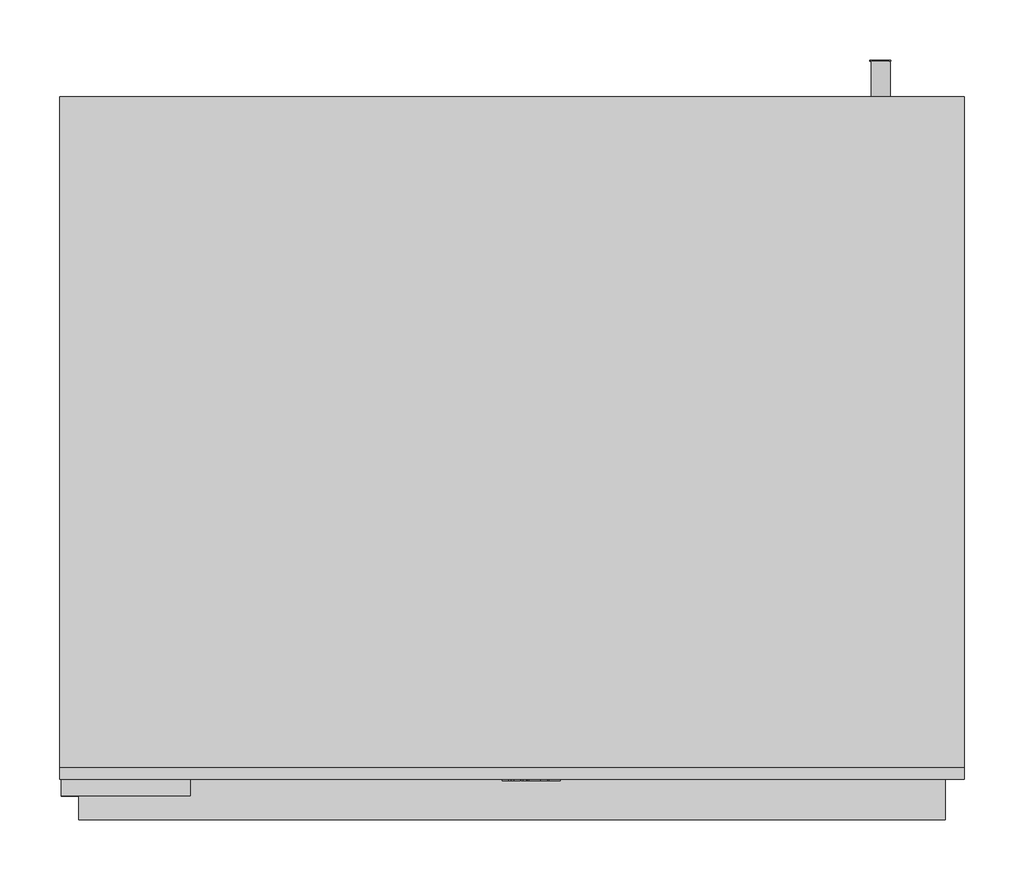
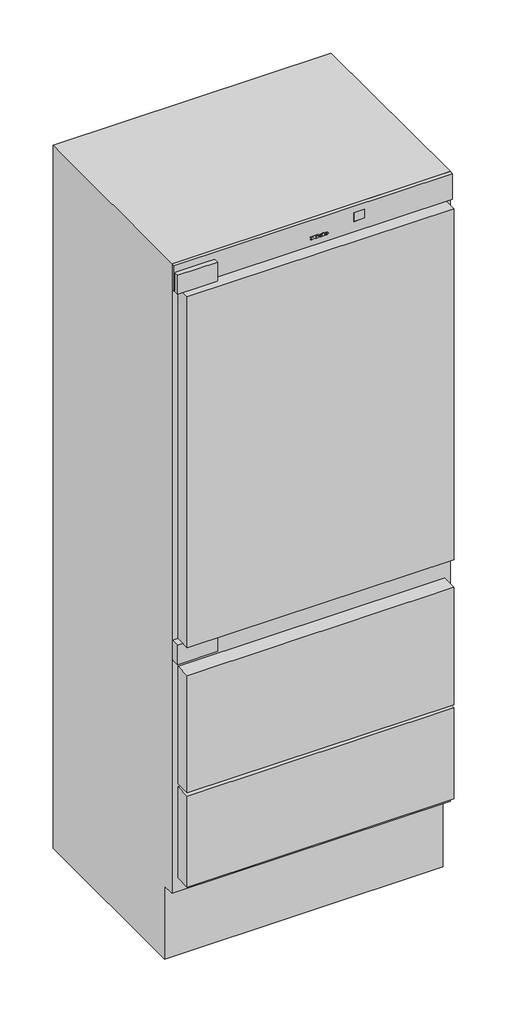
# Not in any storey: 1 proxy.
"""IFC4 building model written with IfcOpenShell, lengths in millimetres."""

import ifcopenshell
import ifcopenshell.guid

model = None  # the IFC model being written
_history = None  # IfcOwnerHistory: only IFC2X3 demands one
_inside = {}  # id of a spatial element -> (the spatial element, [elements in it])
_under = {}  # id of a project, library or spatial element -> (it, [spatial elements below it])
_declared = {}  # id of a project -> (the project, [libraries it declares])
_typed = {}  # id of a type object -> (the type object, [elements of that type])
_made_of = {}  # id of a material, layer set ... -> (it, [elements and type objects made of it])


def new_model(schema):
    """Start an empty IFC model of exactly this schema.

    Asked for "IFC4X3", IfcOpenShell would pick the latest addendum, in which some entities
    have other attributes; the version numbers below select the first issue.
    IFC2X3 requires an IfcOwnerHistory on every rooted entity: one is made here for all.
    """
    global model, _history
    if schema == "IFC4X3":
        model = ifcopenshell.file(schema_version=(4, 3, 0, 0))
    else:
        model = ifcopenshell.file(schema=schema)
    _inside.clear()
    _under.clear()
    _declared.clear()
    _typed.clear()
    _made_of.clear()
    _history = None
    if model.schema == "IFC2X3":
        org = make("IfcOrganization", Name="unknown")
        user = make(
            "IfcPersonAndOrganization",
            ThePerson=make("IfcPerson", FamilyName="unknown"),
            TheOrganization=org,
        )
        app = make(
            "IfcApplication",
            ApplicationDeveloper=org,
            Version="unknown",
            ApplicationFullName="unknown",
            ApplicationIdentifier="unknown",
        )
        _history = make(
            "IfcOwnerHistory",
            OwningUser=user,
            OwningApplication=app,
            ChangeAction="ADDED",
            CreationDate=0,
        )
    return model


def make(cls, **values):
    """One entity of the class cls with the attributes given. An attribute that is None is left unset."""
    return model.create_entity(
        cls, **{name: value for name, value in values.items() if value is not None}
    )


def rooted(cls, **values):
    """An entity with a GlobalId (a new one), such as an element, a storey or a relation."""
    return make(cls, GlobalId=ifcopenshell.guid.new(), OwnerHistory=_history, **values)


def si_unit(unit_type, name, prefix=None):
    """IfcSIUnit, for example si_unit("LENGTHUNIT", "METRE", prefix="MILLI")."""
    return make("IfcSIUnit", UnitType=unit_type, Prefix=prefix, Name=name)


def assignment(units):
    """IfcUnitAssignment: the units of a project."""
    return None if units is None else make("IfcUnitAssignment", Units=units)


def point(xyz):
    """IfcCartesianPoint."""
    return None if xyz is None else make("IfcCartesianPoint", Coordinates=xyz)


def direction(xyz):
    """IfcDirection."""
    return None if xyz is None else make("IfcDirection", DirectionRatios=xyz)


def frame(location, z_axis=None, x_axis=None):
    """IfcAxis2Placement3D, a coordinate frame: its origin and axes. An axis left out is left unset."""
    return make(
        "IfcAxis2Placement3D",
        Location=point(location),
        Axis=direction(z_axis),
        RefDirection=direction(x_axis),
    )


def frame_2d(location, x_axis=None):
    """IfcAxis2Placement2D, a coordinate frame in the plane: its origin and x axis."""
    return make(
        "IfcAxis2Placement2D", Location=point(location), RefDirection=direction(x_axis)
    )


def origin():
    """The frame at (0, 0, 0) with its axes left unset."""
    return frame((0.0, 0.0, 0.0))


def origin_with_axes():
    """The frame at (0, 0, 0) with the z axis (0, 0, 1) and the x axis (1, 0, 0) written out."""
    return frame((0.0, 0.0, 0.0), z_axis=(0.0, 0.0, 1.0), x_axis=(1.0, 0.0, 0.0))


def place(relative_to, where):
    """IfcLocalPlacement: puts the frame where relative to a parent placement (None: the world)."""
    return make(
        "IfcLocalPlacement", PlacementRelTo=relative_to, RelativePlacement=where
    )


def context(
    kind, dimensions, precision=None, world=None, true_north=None, identifier=None
):
    """IfcGeometricRepresentationContext, for example the 3D "Model" context."""
    return make(
        "IfcGeometricRepresentationContext",
        ContextIdentifier=identifier,
        ContextType=kind,
        CoordinateSpaceDimension=dimensions,
        Precision=precision,
        WorldCoordinateSystem=world,
        TrueNorth=true_north,
    )


def project(units=None, contexts=None):
    """IfcProject with its units and contexts."""
    return rooted(
        "IfcProject",
        Name="project",
        RepresentationContexts=contexts,
        UnitsInContext=assignment(units),
    )


def spatial(cls, under=None, at=None, **own):
    """A site, building, storey or space (cls), placed at a placement, below another one or the project."""
    s = rooted(cls, ObjectPlacement=at, **own)
    if under is not None:
        _under.setdefault(under.id(), (under, []))[1].append(s)
    return s


def polyline(points):
    """IfcPolyline through the points."""
    return make("IfcPolyline", Points=[point(p) for p in points])


def circle_curve(where, radius):
    """IfcCircle in the frame where."""
    return make("IfcCircle", Position=where, Radius=radius)


def ellipse_curve(where, semi_axis1, semi_axis2):
    """IfcEllipse in the frame where."""
    return make(
        "IfcEllipse", Position=where, SemiAxis1=semi_axis1, SemiAxis2=semi_axis2
    )


def trimmed(basis, trim1, trim2, sense, master):
    """IfcTrimmedCurve: the piece of a basis curve between two trims."""
    return make(
        "IfcTrimmedCurve",
        BasisCurve=basis,
        Trim1=trim1,
        Trim2=trim2,
        SenseAgreement=sense,
        MasterRepresentation=master,
    )


def segment(curve, same_sense, transition):
    """IfcCompositeCurveSegment."""
    return make(
        "IfcCompositeCurveSegment",
        Transition=transition,
        SameSense=same_sense,
        ParentCurve=curve,
    )


def composite_curve(segments, self_intersect=None):
    """IfcCompositeCurve: segments joined end to end."""
    return make("IfcCompositeCurve", Segments=segments, SelfIntersect=self_intersect)


def outline(outer, holes=None, kind="AREA"):
    """IfcArbitraryClosedProfileDef: a profile drawn as a closed curve; with holes, ...WithVoids."""
    if holes is None:
        return make("IfcArbitraryClosedProfileDef", ProfileType=kind, OuterCurve=outer)
    return make(
        "IfcArbitraryProfileDefWithVoids",
        ProfileType=kind,
        OuterCurve=outer,
        InnerCurves=holes,
    )


def extrude(swept, where, along, depth):
    """IfcExtrudedAreaSolid: the profile swept, set in the frame where, extruded along a direction by depth."""
    return make(
        "IfcExtrudedAreaSolid",
        SweptArea=swept,
        Position=where,
        ExtrudedDirection=direction(along),
        Depth=depth,
    )


def faces_of(points, faces, orient=None, outer=None):
    """IfcFace entities. A face is a list of loops; a loop is a list of indices into points, from 0.

    orient and outer hold one flag for each loop. By default every Orientation is true, the
    first loop of a face is its IfcFaceOuterBound and the others are IfcFaceBound.
    """
    made = []
    for i, loops in enumerate(faces):
        bounds = []
        for j, loop in enumerate(loops):
            is_outer = j == 0 if outer is None else outer[i][j]
            bounds.append(
                make(
                    "IfcFaceOuterBound" if is_outer else "IfcFaceBound",
                    Bound=make("IfcPolyLoop", Polygon=[points[k] for k in loop]),
                    Orientation=True if orient is None else orient[i][j],
                )
            )
        made.append(make("IfcFace", Bounds=bounds))
    return made


def faceted_brep(points, faces, orient=None, outer=None, voids=None):
    """IfcFacetedBrep: a solid bounded by flat faces; with voids (closed shells), ...WithVoids."""
    shared = [point(p) for p in points]
    hull = make("IfcClosedShell", CfsFaces=faces_of(shared, faces, orient, outer))
    if voids is None:
        return make("IfcFacetedBrep", Outer=hull)
    return make(
        "IfcFacetedBrepWithVoids",
        Outer=hull,
        Voids=[
            make(cls, CfsFaces=faces_of(shared, fs, o, b)) for cls, fs, o, b in voids
        ],
    )


def shape(context_of_items, identifier, shape_type, items):
    """IfcShapeRepresentation: the items that make up one representation, for example the "Body"."""
    return make(
        "IfcShapeRepresentation",
        ContextOfItems=context_of_items,
        RepresentationIdentifier=identifier,
        RepresentationType=shape_type,
        Items=items,
    )


def source(mapping_origin, context_of_items, identifier, shape_type, items):
    """IfcRepresentationMap: a shape defined once, which mapped items show again and again."""
    return make(
        "IfcRepresentationMap",
        MappingOrigin=mapping_origin,
        MappedRepresentation=shape(context_of_items, identifier, shape_type, items),
    )


def transform(
    local_origin,
    x_axis=None,
    y_axis=None,
    z_axis=None,
    scale=None,
    scale2=None,
    scale3=None,
    uniform=True,
):
    """IfcCartesianTransformationOperator3D, or its non-uniform kind. x_axis, y_axis, z_axis: its Axis1, 2, 3."""
    if uniform:
        return make(
            "IfcCartesianTransformationOperator3D",
            Axis1=direction(x_axis),
            Axis2=direction(y_axis),
            LocalOrigin=point(local_origin),
            Scale=scale,
            Axis3=direction(z_axis),
        )
    return make(
        "IfcCartesianTransformationOperator3DnonUniform",
        Axis1=direction(x_axis),
        Axis2=direction(y_axis),
        LocalOrigin=point(local_origin),
        Scale=scale,
        Axis3=direction(z_axis),
        Scale2=scale2,
        Scale3=scale3,
    )


def mapped(mapping_source, mapping_target):
    """IfcMappedItem: shows the shape of a source again, moved by a transform."""
    return make(
        "IfcMappedItem", MappingSource=mapping_source, MappingTarget=mapping_target
    )


def made_of(thing, what):
    """Note that an element or type object is made of a material, layer set ...; save() writes the relation."""
    if what is not None:
        _made_of.setdefault(what.id(), (what, []))[1].append(thing)
    return thing


def element(
    cls,
    number,
    at=None,
    inside=None,
    cuts=None,
    type_object=None,
    material=None,
    context=None,
    identifier="Body",
    shape_type=None,
    held_by="IfcProductDefinitionShape",
    body=None,
    shapes=None,
    **own,
):
    """One element of the class cls, such as IfcWall. Its Tag is "e" and its number.

    at: its placement. inside: the storey or other place that contains it. cuts: it is an
    opening in that element (IfcRelVoidsElement). A single representation is given by context,
    identifier, shape_type and body (its items); several are given by shapes. held_by: the class
    of the entity that holds the representations. save() writes the other relations.
    """
    e = rooted(cls, Tag="e%d" % number, ObjectPlacement=at, **own)
    if body is not None:
        shapes = [shape(context, identifier, shape_type, body)]
    if shapes is not None:
        e.Representation = make(held_by, Representations=shapes)
    if inside is not None:
        _inside.setdefault(inside.id(), (inside, []))[1].append(e)
    if cuts is not None:
        rooted(
            "IfcRelVoidsElement", RelatingBuildingElement=cuts, RelatedOpeningElement=e
        )
    if type_object is not None:
        _typed.setdefault(type_object.id(), (type_object, []))[1].append(e)
    return made_of(e, material)


def aggregate(whole, parts):
    """IfcRelAggregates: a whole, such as a stair, and the parts it consists of."""
    return rooted("IfcRelAggregates", RelatingObject=whole, RelatedObjects=parts)


def save(model, path):
    """Write the relations noted so far, then the file.

    IfcRelAggregates (storeys below a building ...), IfcRelContainedInSpatialStructure (elements
    in a storey), IfcRelDefinesByType, IfcRelAssociatesMaterial and IfcRelDeclares: one each for
    every whole, place, type object, material and project.
    """
    for whole, parts in _under.values():
        aggregate(whole, parts)
    for where, things in _inside.values():
        rooted(
            "IfcRelContainedInSpatialStructure",
            RelatedElements=things,
            RelatingStructure=where,
        )
    for kind, things in _typed.values():
        rooted("IfcRelDefinesByType", RelatedObjects=things, RelatingType=kind)
    for what, things in _made_of.values():
        rooted("IfcRelAssociatesMaterial", RelatedObjects=things, RelatingMaterial=what)
    for by, libraries in _declared.values():
        rooted("IfcRelDeclares", RelatingContext=by, RelatedDefinitions=libraries)
    model.write(path)


def plane_surface(at):
    """IfcPlane: the flat surface through the origin of the frame at, square to its z axis."""
    return make("IfcPlane", Position=at)


def cylinder_surface(at, radius):
    """IfcCylindricalSurface: all points at the distance radius from the z axis of the frame at."""
    return make("IfcCylindricalSurface", Position=at, Radius=radius)


def revolved_surface(curve, axis_point, axis_direction):
    """IfcSurfaceOfRevolution: the curve turned about the line through axis_point along axis_direction."""
    return make(
        "IfcSurfaceOfRevolution",
        SweptCurve=make("IfcArbitraryOpenProfileDef", ProfileType="CURVE", Curve=curve),
        AxisPosition=make("IfcAxis1Placement", Location=point(axis_point), Axis=direction(axis_direction)),
    )


def extruded_surface(curve, direction_of_extrusion, depth):
    """IfcSurfaceOfLinearExtrusion: the curve pushed along a direction by depth."""
    return make(
        "IfcSurfaceOfLinearExtrusion",
        SweptCurve=make("IfcArbitraryOpenProfileDef", ProfileType="CURVE", Curve=curve),
        ExtrudedDirection=direction(direction_of_extrusion),
        Depth=depth,
    )


def advanced_brep(points, edges, surfaces, faces):
    """IfcAdvancedBrep: a solid bounded by faces that lie on surfaces and meet in shared edges.

    An edge is (start, end): straight between two places in points (the first is 0);
    or (start, end, curve); or (start, end, curve, False) where it runs against its curve.
    A face is (place in surfaces, loops), or (place, loops, False) where it looks against
    its surface's normal. A loop lists edges by number (the first is 1), with a minus sign
    where the edge is run from its end to its start. The first loop is the outer one.
    """
    corners = [point(p) for p in points]
    vertices = [make("IfcVertexPoint", VertexGeometry=c) for c in corners]
    made = []
    for start, end, *more in edges:
        made.append(
            make(
                "IfcEdgeCurve",
                EdgeStart=vertices[start],
                EdgeEnd=vertices[end],
                EdgeGeometry=more[0] if more else make("IfcPolyline", Points=[corners[start], corners[end]]),
                SameSense=more[1] if len(more) > 1 else True,
            )
        )
    hull = []
    for where, loops, *sense in faces:
        bounds = []
        for j, loop in enumerate(loops):
            ring = [make("IfcOrientedEdge", EdgeElement=made[abs(k) - 1], Orientation=k > 0) for k in loop]
            bounds.append(
                make(
                    "IfcFaceOuterBound" if j == 0 else "IfcFaceBound",
                    Bound=make("IfcEdgeLoop", EdgeList=ring),
                    Orientation=True,
                )
            )
        hull.append(make("IfcAdvancedFace", Bounds=bounds, FaceSurface=surfaces[where], SameSense=sense[0] if sense else True))
    return make("IfcAdvancedBrep", Outer=make("IfcClosedShell", CfsFaces=hull))


def specialty_equipment_bac7a8fd(model_context):
    return source(origin(), model_context, "Body", "SolidModel", [
        advanced_brep(
        [(34.992016, 32.7, 1972.9334815), (34.992016, 32.7, 1973.7414815), (40.344016, 32.7, 1973.7414815), (31.032016, 32.7, 1973.7414815), (33.232016, 32.7, 1971.0374815), (40.208016, 32.7, 1972.9334815), (37.792016, 32.7, 1972.9334815), (35.888016, 32.7, 1972.0374815), (34.992016, 32.7, 1974.7654815), (34.992016, 32.7, 1975.6374815), (36.360016, 32.7, 1975.6374815), (36.360016, 32.7, 1974.7654815), (34.992016, 33.7, 1972.9334815), (35.888016, 33.7, 1972.0374815), (37.792016, 33.7, 1972.9334815), (40.208016, 33.7, 1972.9334815), (33.232016, 33.7, 1971.0374815), (31.032016, 33.7, 1973.7414815), (40.344016, 33.7, 1973.7414815), (34.992016, 33.7, 1973.7414815), (34.992016, 33.7, 1974.7654815), (36.360016, 33.7, 1974.7654815), (36.360016, 33.7, 1975.6374815), (34.992016, 33.7, 1975.6374815)],
        [
            (0, 1),
            (1, 2),
            (2, 3, ellipse_curve(frame((35.688016, 32.7, 1973.7414815), z_axis=(0.0, -1.0, 0.0), x_axis=(-1.0, 0.0, 0.0)), 4.656, 3.848)),
            (3, 4, circle_curve(frame((34.1280596, 32.7, 1974.0134815), z_axis=(0.0, -1.0, 0.0), x_axis=(0.0, 0.0, -1.0)), 3.1079688)),
            (4, 5, circle_curve(frame((35.5948096, 32.7, 1976.1254815), z_axis=(0.0, -1.0, 0.0), x_axis=(0.0, 0.0, -1.0)), 5.6098607)),
            (5, 6),
            (6, 7, circle_curve(frame((36.2790748, 32.7, 1973.6774815), z_axis=(0.0, 1.0, 0.0), x_axis=(0.0, 0.0, -1.0)), 1.6859795)),
            (7, 0, circle_curve(frame((35.888016, 32.7, 1972.9334815), z_axis=(0.0, 1.0, 0.0), x_axis=(0.0, 0.0, -1.0)), 0.896)),
            (8, 9),
            (9, 10, circle_curve(frame((35.676016, 32.7, 1975.6374815), z_axis=(0.0, 1.0, 0.0), x_axis=(0.0, 0.0, -1.0)), 0.684)),
            (10, 11),
            (11, 8),
            (12, 13, circle_curve(frame((35.888016, 33.7, 1972.9334815), z_axis=(0.0, -1.0, 0.0), x_axis=(0.0, 0.0, -1.0)), 0.896)),
            (13, 14, circle_curve(frame((36.2790748, 33.7, 1973.6774815), z_axis=(0.0, -1.0, 0.0), x_axis=(0.0, 0.0, -1.0)), 1.6859795)),
            (14, 15),
            (15, 16, circle_curve(frame((35.5948096, 33.7, 1976.1254815), z_axis=(0.0, 1.0, 0.0), x_axis=(0.0, 0.0, -1.0)), 5.6098607)),
            (16, 17, circle_curve(frame((34.1280596, 33.7, 1974.0134815), z_axis=(0.0, 1.0, 0.0), x_axis=(0.0, 0.0, -1.0)), 3.1079688)),
            (17, 18, ellipse_curve(frame((35.688016, 33.7, 1973.7414815), z_axis=(0.0, 1.0, 0.0), x_axis=(-1.0, 0.0, 0.0)), 4.656, 3.848)),
            (18, 19),
            (19, 12),
            (20, 21),
            (21, 22),
            (22, 23, circle_curve(frame((35.676016, 33.7, 1975.6374815), z_axis=(0.0, -1.0, 0.0), x_axis=(0.0, 0.0, -1.0)), 0.684)),
            (23, 20),
            (0, 12),
            (19, 1),
            (18, 2),
            (5, 15),
            (14, 6),
            (17, 3),
            (13, 7),
            (16, 4),
            (8, 20),
            (23, 9),
            (22, 10),
            (21, 11),
        ],
        [
            plane_surface(frame((34.992016, 32.7, 1973.7414815), z_axis=(0.0, -1.0, 0.0), x_axis=(0.0, 0.0, 1.0))),
            plane_surface(frame((34.992016, 33.7, 1973.7414815), z_axis=(0.0, 1.0, 0.0), x_axis=(0.0, 0.0, -1.0))),
            plane_surface(frame((34.992016, 32.7, 1972.9334815), z_axis=(1.0, 0.0, 0.0), x_axis=(0.0, 1.0, 0.0))),
            plane_surface(frame((34.992016, 32.7, 1973.7414815), z_axis=(0.0, 0.0, -1.0), x_axis=(0.0, 1.0, 0.0))),
            plane_surface(frame((40.208016, 32.7, 1972.9334815), z_axis=(0.0, 0.0, 1.0), x_axis=(0.0, 1.0, 0.0))),
            extruded_surface(trimmed(ellipse_curve(frame((35.688016, 34.7, 1973.7414815), z_axis=(0.0, -1.0, 0.0), x_axis=(-1.0, 0.0, 0.0)), 4.656, 3.848), [point((40.344016, 34.7, 1973.7414815))], [point((31.032016, 34.7, 1973.7414815))], True, "CARTESIAN"), (0.0, -1.0, 0.0), 1.0),
            revolved_surface(polyline([(36.2790748, 33.7, 1971.991502), (36.2790748, 32.7, 1971.991502)]), (36.2790748, 33.7, 1973.6774815), (0.0, 1.0, 0.0)),
            revolved_surface(polyline([(35.888016, 33.7, 1972.0374815), (35.888016, 32.7, 1972.0374815)]), (35.888016, 33.7, 1972.9334815), (0.0, 1.0, 0.0)),
            cylinder_surface(frame((34.1280596, 33.7, 1974.0134815), z_axis=(0.0, -1.0, 0.0), x_axis=(0.0, 0.0, -1.0)), 3.1079688),
            cylinder_surface(frame((35.5948096, 33.7, 1976.1254815), z_axis=(0.0, -1.0, 0.0), x_axis=(0.0, 0.0, -1.0)), 5.6098607),
            plane_surface(frame((34.992016, 32.7, 1974.7654815), z_axis=(1.0, 0.0, 0.0), x_axis=(0.0, 1.0, 0.0))),
            revolved_surface(polyline([(35.676016, 33.7, 1974.9534815), (35.676016, 32.7, 1974.9534815)]), (35.676016, 33.7, 1975.6374815), (0.0, 1.0, 0.0)),
            plane_surface(frame((36.360016, 32.7, 1975.6374815), z_axis=(-1.0, 0.0, 0.0), x_axis=(0.0, 1.0, 0.0))),
            plane_surface(frame((36.360016, 32.7, 1974.7654815), z_axis=(0.0, 0.0, 1.0), x_axis=(0.0, 1.0, 0.0))),
        ],
        [
            (0, [[1, 2, 3, 4, 5, 6, 7, 8], [9, 10, 11, 12]]),
            (1, [[13, 14, 15, 16, 17, 18, 19, 20], [21, 22, 23, 24]]),
            (2, [[-1, 25, -20, 26]]),
            (3, [[-2, -26, -19, 27]]),
            (4, [[-6, 28, -15, 29]]),
            (5, [[-3, -27, -18, 30]]),
            (6, [[-7, -29, -14, 31]]),
            (7, [[-8, -31, -13, -25]]),
            (8, [[-4, -30, -17, 32]]),
            (9, [[-5, -32, -16, -28]]),
            (10, [[-9, 33, -24, 34]]),
            (11, [[-10, -34, -23, 35]]),
            (12, [[-11, -35, -22, 36]]),
            (13, [[-12, -36, -21, -33]]),
        ],
    ),
        advanced_brep(
        [(18.296016, 32.7, 1972.9334815), (18.296016, 32.7, 1973.7414815), (23.648016, 32.7, 1973.7414815), (14.336016, 32.7, 1973.7414815), (16.536016, 32.7, 1971.0374815), (23.512016, 32.7, 1972.9334815), (21.096016, 32.7, 1972.9334815), (19.192016, 32.7, 1972.0374815), (18.296016, 32.7, 1974.7654815), (18.296016, 32.7, 1975.6374815), (19.664016, 32.7, 1975.6374815), (19.664016, 32.7, 1974.7654815), (18.296016, 33.7, 1972.9334815), (19.192016, 33.7, 1972.0374815), (21.096016, 33.7, 1972.9334815), (23.512016, 33.7, 1972.9334815), (16.536016, 33.7, 1971.0374815), (14.336016, 33.7, 1973.7414815), (23.648016, 33.7, 1973.7414815), (18.296016, 33.7, 1973.7414815), (18.296016, 33.7, 1974.7654815), (19.664016, 33.7, 1974.7654815), (19.664016, 33.7, 1975.6374815), (18.296016, 33.7, 1975.6374815)],
        [
            (0, 1),
            (1, 2),
            (2, 3, ellipse_curve(frame((18.992016, 32.7, 1973.7414815), z_axis=(0.0, -1.0, 0.0), x_axis=(-1.0, 0.0, 0.0)), 4.656, 3.848)),
            (3, 4, circle_curve(frame((17.4320596, 32.7, 1974.0134815), z_axis=(0.0, -1.0, 0.0), x_axis=(0.0, 0.0, -1.0)), 3.1079688)),
            (4, 5, circle_curve(frame((18.8988096, 32.7, 1976.1254815), z_axis=(0.0, -1.0, 0.0), x_axis=(0.0, 0.0, -1.0)), 5.6098607)),
            (5, 6),
            (6, 7, circle_curve(frame((19.5830748, 32.7, 1973.6774815), z_axis=(0.0, 1.0, 0.0), x_axis=(0.0, 0.0, -1.0)), 1.6859795)),
            (7, 0, circle_curve(frame((19.192016, 32.7, 1972.9334815), z_axis=(0.0, 1.0, 0.0), x_axis=(0.0, 0.0, -1.0)), 0.896)),
            (8, 9),
            (9, 10, circle_curve(frame((18.980016, 32.7, 1975.6374815), z_axis=(0.0, 1.0, 0.0), x_axis=(0.0, 0.0, -1.0)), 0.684)),
            (10, 11),
            (11, 8),
            (12, 13, circle_curve(frame((19.192016, 33.7, 1972.9334815), z_axis=(0.0, -1.0, 0.0), x_axis=(0.0, 0.0, -1.0)), 0.896)),
            (13, 14, circle_curve(frame((19.5830748, 33.7, 1973.6774815), z_axis=(0.0, -1.0, 0.0), x_axis=(0.0, 0.0, -1.0)), 1.6859795)),
            (14, 15),
            (15, 16, circle_curve(frame((18.8988096, 33.7, 1976.1254815), z_axis=(0.0, 1.0, 0.0), x_axis=(0.0, 0.0, -1.0)), 5.6098607)),
            (16, 17, circle_curve(frame((17.4320596, 33.7, 1974.0134815), z_axis=(0.0, 1.0, 0.0), x_axis=(0.0, 0.0, -1.0)), 3.1079688)),
            (17, 18, ellipse_curve(frame((18.992016, 33.7, 1973.7414815), z_axis=(0.0, 1.0, 0.0), x_axis=(-1.0, 0.0, 0.0)), 4.656, 3.848)),
            (18, 19),
            (19, 12),
            (20, 21),
            (21, 22),
            (22, 23, circle_curve(frame((18.980016, 33.7, 1975.6374815), z_axis=(0.0, -1.0, 0.0), x_axis=(0.0, 0.0, -1.0)), 0.684)),
            (23, 20),
            (0, 12),
            (19, 1),
            (18, 2),
            (5, 15),
            (14, 6),
            (17, 3),
            (13, 7),
            (16, 4),
            (8, 20),
            (23, 9),
            (22, 10),
            (21, 11),
        ],
        [
            plane_surface(frame((18.296016, 32.7, 1973.7414815), z_axis=(0.0, -1.0, 0.0), x_axis=(0.0, 0.0, 1.0))),
            plane_surface(frame((18.296016, 33.7, 1973.7414815), z_axis=(0.0, 1.0, 0.0), x_axis=(0.0, 0.0, -1.0))),
            plane_surface(frame((18.296016, 32.7, 1972.9334815), z_axis=(1.0, 0.0, 0.0), x_axis=(0.0, 1.0, 0.0))),
            plane_surface(frame((18.296016, 32.7, 1973.7414815), z_axis=(0.0, 0.0, -1.0), x_axis=(0.0, 1.0, 0.0))),
            plane_surface(frame((23.512016, 32.7, 1972.9334815), z_axis=(0.0, 0.0, 1.0), x_axis=(0.0, 1.0, 0.0))),
            extruded_surface(trimmed(ellipse_curve(frame((18.992016, 34.7, 1973.7414815), z_axis=(0.0, -1.0, 0.0), x_axis=(-1.0, 0.0, 0.0)), 4.656, 3.848), [point((23.648016, 34.7, 1973.7414815))], [point((14.336016, 34.7, 1973.7414815))], True, "CARTESIAN"), (0.0, -1.0, 0.0), 1.0),
            revolved_surface(polyline([(19.5830748, 33.7, 1971.991502), (19.5830748, 32.7, 1971.991502)]), (19.5830748, 33.7, 1973.6774815), (0.0, 1.0, 0.0)),
            revolved_surface(polyline([(19.192016, 33.7, 1972.0374815), (19.192016, 32.7, 1972.0374815)]), (19.192016, 33.7, 1972.9334815), (0.0, 1.0, 0.0)),
            cylinder_surface(frame((17.4320596, 33.7, 1974.0134815), z_axis=(0.0, -1.0, 0.0), x_axis=(0.0, 0.0, -1.0)), 3.1079688),
            cylinder_surface(frame((18.8988096, 33.7, 1976.1254815), z_axis=(0.0, -1.0, 0.0), x_axis=(0.0, 0.0, -1.0)), 5.6098607),
            plane_surface(frame((18.296016, 32.7, 1974.7654815), z_axis=(1.0, 0.0, 0.0), x_axis=(0.0, 1.0, 0.0))),
            revolved_surface(polyline([(18.980016, 33.7, 1974.9534815), (18.980016, 32.7, 1974.9534815)]), (18.980016, 33.7, 1975.6374815), (0.0, 1.0, 0.0)),
            plane_surface(frame((19.664016, 32.7, 1975.6374815), z_axis=(-1.0, 0.0, 0.0), x_axis=(0.0, 1.0, 0.0))),
            plane_surface(frame((19.664016, 32.7, 1974.7654815), z_axis=(0.0, 0.0, 1.0), x_axis=(0.0, 1.0, 0.0))),
        ],
        [
            (0, [[1, 2, 3, 4, 5, 6, 7, 8], [9, 10, 11, 12]]),
            (1, [[13, 14, 15, 16, 17, 18, 19, 20], [21, 22, 23, 24]]),
            (2, [[-1, 25, -20, 26]]),
            (3, [[-2, -26, -19, 27]]),
            (4, [[-6, 28, -15, 29]]),
            (5, [[-3, -27, -18, 30]]),
            (6, [[-7, -29, -14, 31]]),
            (7, [[-8, -31, -13, -25]]),
            (8, [[-4, -30, -17, 32]]),
            (9, [[-5, -32, -16, -28]]),
            (10, [[-9, 33, -24, 34]]),
            (11, [[-10, -34, -23, 35]]),
            (12, [[-11, -35, -22, 36]]),
            (13, [[-12, -36, -21, -33]]),
        ],
    ),
        extrude(outline(polyline([(1978.5654815, 9.552016), (1977.2694815, 10.160016), (1978.5334815, 12.872016), (1979.8294815, 12.272016), (1978.5654815, 9.552016)])), frame((0.0, 32.7, 0.0), z_axis=(0.0, 1.0, 0.0), x_axis=(0.0, 0.0, 1.0)), (0.0, 0.0, 1.0), 1.0),
        extrude(outline(polyline([(1977.0934815, 7.576016), (1975.6614815, 7.576016), (1975.6614815, 8.528016), (1972.3814815, 8.528016), (1972.3814815, 7.576016), (1971.0374815, 7.576016), (1971.0374815, 13.888016), (1972.3814815, 13.888016), (1972.3814815, 12.960016), (1977.0934815, 12.960016), (1977.0934815, 7.576016)])), frame((0.0, 32.7, 0.0), z_axis=(0.0, 1.0, 0.0), x_axis=(0.0, 0.0, 1.0)), (0.0, 0.0, 1.0), 1.0),
        extrude(outline(polyline([(1977.7334815, 24.096016), (1977.7334815, 25.056016), (1972.3814815, 25.056016), (1972.3814815, 24.096016), (1971.0374815, 24.096016), (1971.0374815, 30.584016), (1972.3814815, 30.584016), (1972.3814815, 29.600016), (1979.0374815, 29.600016), (1979.0374815, 24.096016), (1977.7334815, 24.096016)])), frame((0.0, 32.7, 0.0), z_axis=(0.0, 1.0, 0.0), x_axis=(0.0, 0.0, 1.0)), (0.0, 0.0, 1.0), 1.0),
        extrude(outline(polyline([(1977.7334815, -8.367984), (1977.7334815, -7.399984), (1972.3814815, -7.399984), (1972.3814815, -8.367984), (1971.0374815, -8.367984), (1971.0374815, -4.847984), (1972.3814815, -4.847984), (1972.3814815, -5.807984), (1975.7846062, -5.807984), (1971.0374815, -2.231984), (1975.8527038, 1.360016), (1972.3814815, 1.360016), (1972.3814815, 0.376016), (1971.0374815, 0.376016), (1971.0374815, 6.760016), (1972.3814815, 6.760016), (1972.3814815, 5.744016), (1977.7334815, 5.744016), (1977.7334815, 6.760016), (1979.0374815, 6.760016), (1979.0374815, 1.888016), (1976.0374815, -0.447984), (1979.0374815, -2.791984), (1979.0374815, -8.367984), (1977.7334815, -8.367984)])), frame((0.0, 32.7, 0.0), z_axis=(0.0, 1.0, 0.0), x_axis=(0.0, 0.0, 1.0)), (0.0, 0.0, 1.0), 1.0),
        extrude(outline(polyline([(139.4871835, 33.7), (110.0, 33.7), (110.0, 37.5506949), (139.4871835, 37.5506949), (139.4871835, 33.7)])), frame((0.0, 0.0, 1982.0373627), z_axis=(0.0, 0.0, 1.0), x_axis=(1.0, 0.0, 0.0)), (0.0, 0.0, 1.0), 24.9197257),
        extrude(outline(composite_curve([segment(polyline([(523.2701201, 5.0), (553.5577305, 5.0)]), True, "CONTINUOUS"), segment(trimmed(circle_curve(frame_2d((538.4139253, 25.6054757)), 25.5718686), [point((553.5577305, 5.0))], [point((523.2701201, 5.0))], False, "CARTESIAN"), True, "CONTINUOUS")], self_intersect=False)), frame((-318.498606, 0.0, 0.0), z_axis=(1.0, 0.0, 0.0), x_axis=(0.0, 1.0, 0.0)), (0.0, 0.0, 1.0), 29.998606),
        extrude(outline(composite_curve([segment(trimmed(circle_curve(frame_2d((171.1316848, 25.5989474)), 25.5733618), [point((186.2868885, 5.0))], [point((155.9764811, 5.0))], False, "CARTESIAN"), True, "CONTINUOUS"), segment(polyline([(155.9764811, 5.0), (186.2868885, 5.0)]), True, "CONTINUOUS")], self_intersect=False)), frame((-318.498606, 0.0, 0.0), z_axis=(1.0, 0.0, 0.0), x_axis=(0.0, 1.0, 0.0)), (0.0, 0.0, 1.0), 29.998606),
        extrude(outline(composite_curve([segment(polyline([(523.4049886, 5.0), (553.608309, 5.0)]), True, "CONTINUOUS"), segment(trimmed(circle_curve(frame_2d((538.5066488, 25.6363835)), 25.5718686), [point((553.608309, 5.0))], [point((523.4049886, 5.0))], False, "CARTESIAN"), True, "CONTINUOUS")], self_intersect=False)), frame((288.5, 0.0, 0.0), z_axis=(1.0, 0.0, 0.0), x_axis=(0.0, 1.0, 0.0)), (0.0, 0.0, 1.0), 29.998606),
        extrude(outline(composite_curve([segment(trimmed(circle_curve(frame_2d((170.983878, 25.7067979)), 25.5732955), [point((185.9912749, 5.0))], [point((155.9764811, 5.0))], False, "CARTESIAN"), True, "CONTINUOUS"), segment(polyline([(155.9764811, 5.0), (185.9912749, 5.0)]), True, "CONTINUOUS")], self_intersect=False)), frame((288.5, 0.0, 0.0), z_axis=(1.0, 0.0, 0.0), x_axis=(0.0, 1.0, 0.0)), (0.0, 0.0, 1.0), 29.998606),
        extrude(outline(composite_curve([segment(trimmed(circle_curve(frame_2d((-344.998553, 111.113054)), 15.0), [point((-359.998553, 111.113054))], [point((-329.998553, 111.113054))], False, "CARTESIAN"), True, "CONTINUOUS"), segment(trimmed(circle_curve(frame_2d((-344.998553, 111.113054)), 15.0), [point((-329.998553, 111.113054))], [point((-359.998553, 111.113054))], False, "CARTESIAN"), True, "CONTINUOUS")], self_intersect=False)), origin_with_axes(), (0.0, 0.0, 1.0), 5.0),
        extrude(outline(composite_curve([segment(trimmed(circle_curve(frame_2d((344.998553, 111.113054)), 15.0), [point((329.998553, 111.113054))], [point((359.998553, 111.113054))], False, "CARTESIAN"), True, "CONTINUOUS"), segment(trimmed(circle_curve(frame_2d((344.998553, 111.113054)), 15.0), [point((359.998553, 111.113054))], [point((329.998553, 111.113054))], False, "CARTESIAN"), True, "CONTINUOUS")], self_intersect=False)), origin_with_axes(), (0.0, 0.0, 1.0), 5.0),
        faceted_brep([(378.5, 605.0, 2026.0), (-378.5, 605.0, 2026.0), (-378.5, 44.0, 2026.0), (378.5, 44.0, 2026.0), (-378.5, 605.0, 5.0), (378.5, 605.0, 5.0), (378.5, 79.0, 5.0), (-378.5, 79.0, 5.0), (-378.5, 79.0, 215.0), (-378.5, 44.0, 215.0), (-264.5, 80.0, 882.0), (-264.5, 80.0, 942.0), (-377.5, 80.0, 942.0), (-377.5, 80.0, 882.0), (-377.5, 44.0, 942.0), (-377.5, 44.0, 882.0), (-264.5, 44.0, 942.0), (-264.5, 44.0, 882.0), (378.5, 44.0, 215.0), (-333.0, 44.0, 1919.0), (333.0, 44.0, 1919.0), (333.0, 44.0, 969.0), (-333.0, 44.0, 969.0), (-333.0, 44.0, 860.0), (333.0, 44.0, 860.0), (333.0, 44.0, 301.0), (-333.0, 44.0, 301.0), (-377.5, 44.0, 2006.0), (-264.5, 44.0, 2006.0), (-264.5, 44.0, 1951.0), (-377.5, 44.0, 1951.0), (378.5, 79.0, 215.0), (333.0, 497.5878677, 1919.0), (-333.0, 497.5878677, 1919.0), (-333.0, 497.5878677, 969.0), (333.0, 497.5878677, 969.0), (333.0, 497.5878677, 860.0), (-333.0, 497.5878677, 860.0), (-333.0, 497.5878677, 301.0), (333.0, 497.5878677, 301.0), (-264.5, 80.0, 2006.0), (-377.5, 80.0, 2006.0), (-377.5, 80.0, 1951.0), (-264.5, 80.0, 1951.0)], [[[0, 1, 2, 3]], [[4, 5, 6, 7]], [[1, 0, 5, 4]], [[2, 1, 4, 7, 8, 9]], [[10, 11, 12, 13]], [[13, 12, 14, 15]], [[12, 11, 16, 14]], [[11, 10, 17, 16]], [[3, 2, 9, 18], [19, 20, 21, 22], [23, 24, 25, 26], [27, 28, 29, 30], [17, 15, 14, 16]], [[0, 3, 18, 31, 6, 5]], [[32, 33, 34, 35]], [[33, 32, 20, 19]], [[34, 33, 19, 22]], [[35, 34, 22, 21]], [[32, 35, 21, 20]], [[31, 8, 7, 6]], [[8, 31, 18, 9]], [[36, 37, 38, 39]], [[37, 36, 24, 23]], [[38, 37, 23, 26]], [[39, 38, 26, 25]], [[36, 39, 25, 24]], [[40, 41, 42, 43]], [[41, 40, 28, 27]], [[42, 41, 27, 30]], [[43, 42, 30, 29]], [[40, 43, 29, 28]], [[10, 13, 15, 17]]]),
        extrude(outline(polyline([(167.0, 306.9931553), (175.0365048, 306.9931553), (175.0365048, 305.9885922), (168.0045631, 305.9885922), (168.0045631, 301.9703398), (167.0, 301.9703398), (167.0, 306.9931553)])), frame((0.0, 635.0, 0.0), z_axis=(0.0, 1.0, 0.0), x_axis=(0.0, 0.0, 1.0)), (0.0, 0.0, 1.0), 1.0),
        extrude(outline(polyline([(167.0, 314.4018082), (175.0365048, 314.4018082), (175.0365048, 308.6255704), (174.0319417, 308.6255704), (174.0319417, 313.3972451), (171.6461043, 313.3972451), (171.6461043, 308.8767112), (170.6415412, 308.8767112), (170.6415412, 313.3972451), (168.0045631, 313.3972451), (168.0045631, 308.5), (167.0, 308.5), (167.0, 314.4018082)])), frame((0.0, 635.0, 0.0), z_axis=(0.0, 1.0, 0.0), x_axis=(0.0, 0.0, 1.0)), (0.0, 0.0, 1.0), 1.0),
        extrude(outline(polyline([(191.0, 308.0663898), (199.0365048, 310.2579854), (199.0365048, 309.2220297), (193.7547004, 307.9506296), (192.1242474, 307.5582221), (193.5663448, 307.1383461), (199.0365048, 305.5451718), (199.0365048, 304.0520614), (195.0712274, 302.8944594), (192.1242474, 302.033125), (193.7076115, 301.6524898), (199.0365048, 300.3693174), (199.0365048, 299.3333617), (191.0, 301.5269194), (191.0, 302.6001538), (197.2000379, 304.5268745), (198.0652963, 304.7956736), (197.0234545, 305.0978273), (191.0, 306.8538507), (191.0, 308.0663898)])), frame((0.0, 635.0, 0.0), z_axis=(0.0, 1.0, 0.0), x_axis=(0.0, 0.0, 1.0)), (0.0, 0.0, 1.0), 1.0),
        extrude(outline(polyline([(191.0, 316.913216), (199.0365048, 316.913216), (199.0365048, 315.9086529), (195.10262, 315.9086529), (199.0365048, 311.7883745), (199.0365048, 310.3835558), (195.732434, 313.8426276), (191.0, 310.2579854), (191.0, 311.4862208), (195.0535691, 314.5548471), (193.7625485, 315.9086529), (191.0, 315.9086529), (191.0, 316.913216)])), frame((0.0, 635.0, 0.0), z_axis=(0.0, 1.0, 0.0), x_axis=(0.0, 0.0, 1.0)), (0.0, 0.0, 1.0), 1.0),
        extrude(outline(composite_curve([segment(trimmed(circle_curve(frame_2d((171.0, 308.5)), 8.0), [point((171.0, 300.5))], [point((171.0, 316.5))], False, "CARTESIAN"), True, "CONTINUOUS"), segment(trimmed(circle_curve(frame_2d((171.0, 308.5)), 8.0), [point((171.0, 316.5))], [point((171.0, 300.5))], False, "CARTESIAN"), True, "CONTINUOUS")], self_intersect=False)), frame((0.0, 605.0, 0.0), z_axis=(0.0, 1.0, 0.0), x_axis=(0.0, 0.0, 1.0)), (0.0, 0.0, 1.0), 30.0),
        extrude(outline(composite_curve([segment(trimmed(circle_curve(frame_2d((195.0, 308.5)), 8.0), [point((195.0, 300.5))], [point((195.0, 316.5))], False, "CARTESIAN"), True, "CONTINUOUS"), segment(trimmed(circle_curve(frame_2d((195.0, 308.5)), 8.0), [point((195.0, 316.5))], [point((195.0, 300.5))], False, "CARTESIAN"), True, "CONTINUOUS")], self_intersect=False)), frame((0.0, 605.0, 0.0), z_axis=(0.0, 1.0, 0.0), x_axis=(0.0, 0.0, 1.0)), (0.0, 0.0, 1.0), 30.0),
        faceted_brep([(378.5, 33.7, 2026.0), (-378.5, 33.7, 2026.0), (-378.5, 33.7, 1952.0), (378.5, 33.7, 1952.0), (110.0, 33.7, 2006.9570884), (139.4871835, 33.7, 2006.9570884), (139.4871835, 33.7, 1982.0373627), (110.0, 33.7, 1982.0373627), (378.5, 44.0, 2026.0), (378.5, 44.0, 1952.0), (-378.5, 44.0, 1952.0), (-378.5, 44.0, 2026.0), (139.4871835, 38.9102145, 2006.9570884), (110.0, 38.9102145, 2006.9570884), (110.0, 38.9102145, 1982.0373627), (139.4871835, 38.9102145, 1982.0373627)], [[[0, 1, 2, 3], [4, 5, 6, 7]], [[8, 9, 10, 11]], [[1, 0, 8, 11]], [[2, 1, 11, 10]], [[3, 2, 10, 9]], [[0, 3, 9, 8]], [[12, 13, 14, 15]], [[13, 12, 5, 4]], [[14, 13, 4, 7]], [[15, 14, 7, 6]], [[12, 15, 6, 5]]]),
        extrude(outline(polyline([(-269.071188, 20.0), (-377.3872053, 20.0), (-377.3872053, 63.0), (-269.071188, 63.0), (-269.071188, 20.0)])), frame((0.0, 0.0, 887.2330293), z_axis=(0.0, 0.0, 1.0), x_axis=(1.0, 0.0, 0.0)), (0.0, 0.0, 1.0), 55.0),
        extrude(outline(polyline([(-269.071188, 20.0), (-377.3872053, 20.0), (-377.3872053, 63.0), (-269.071188, 63.0), (-269.071188, 20.0)])), frame((0.0, 0.0, 1951.5), z_axis=(0.0, 0.0, 1.0), x_axis=(1.0, 0.0, 0.0)), (0.0, 0.0, 1.0), 55.0),
        extrude(outline(polyline([(362.7000389, 0.0), (-362.5, 0.0), (-362.5, 44.0), (362.7000389, 44.0), (362.7000389, 0.0)])), frame((0.0, 0.0, 942.2330293), z_axis=(0.0, 0.0, 1.0), x_axis=(1.0, 0.0, 0.0)), (0.0, 0.0, 1.0), 1009.2669707),
        extrude(outline(polyline([(362.5, 0.0), (-362.5, 0.0), (-362.5, 44.0), (362.5, 44.0), (362.5, 0.0)])), frame((0.0, 0.0, 254.0), z_axis=(0.0, 0.0, 1.0), x_axis=(1.0, 0.0, 0.0)), (0.0, 0.0, 1.0), 262.0),
        extrude(outline(polyline([(362.5, 0.0), (-362.5, 0.0), (-362.5, 44.0), (362.5, 44.0), (362.5, 0.0)])), frame((0.0, 0.0, 525.0), z_axis=(0.0, 0.0, 1.0), x_axis=(1.0, 0.0, 0.0)), (0.0, 0.0, 1.0), 337.5),
    ])


model = new_model("IFC4")

# Units and contexts
model_context = context("Model", 3, world=origin())
ifc_project = project(units=[si_unit("LENGTHUNIT", "METRE", prefix="MILLI")], contexts=[model_context])

# Site, building
site = spatial("IfcSite", under=ifc_project)
building = spatial("IfcBuilding", under=site)

# Proxy
placement = place(None, origin())
specialty_equipment_shape = specialty_equipment_bac7a8fd(model_context)
element("IfcBuildingElementProxy", 1, Name="12153760_USA_KFN9859iDE_LI : 38985952_USA_12153760_KFN9859iDE_LI", ObjectType="12153760_USA_KFN9859iDE_LI : 38985952_USA_12153760_KFN9859iDE_LI", at=placement, inside=building, context=model_context, shape_type="MappedRepresentation", body=[
    mapped(specialty_equipment_shape, transform((0.0, 0.0, 0.0), x_axis=(1.0, 0.0, 0.0), y_axis=(0.0, 1.0, 0.0), z_axis=(0.0, 0.0, 1.0))),
])

save(model, "model.ifc")
